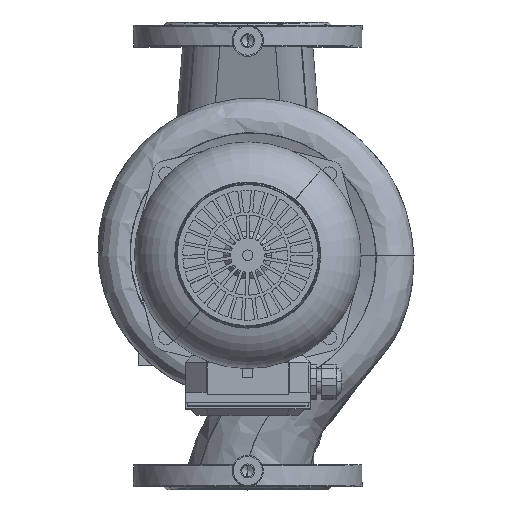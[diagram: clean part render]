
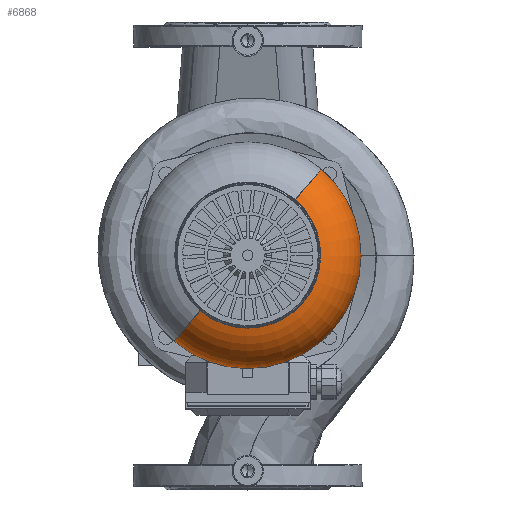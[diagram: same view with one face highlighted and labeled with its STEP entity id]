
A CAD part, top view. The second image highlights one B-rep face of the part: STEP entity #6868.
In plain terms, the highlighted toroidal (fillet/blend) face has major radius 59 mm and minor radius 50 mm.
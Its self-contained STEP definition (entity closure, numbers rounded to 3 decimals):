
#6868=ADVANCED_FACE('NONE',(#16988),#16989,.T.);
#16988=FACE_OUTER_BOUND('',#26919,.T.);
#16989=TOROIDAL_SURFACE('',#26920,59.0,50.0);
#26919=EDGE_LOOP('',(#35600,#35601,#35602,#35603));
#26920=AXIS2_PLACEMENT_3D('',#35604,#35605,#35606);
#35600=ORIENTED_EDGE('',*,*,#45375,.F.);
#35601=ORIENTED_EDGE('',*,*,#45374,.T.);
#35602=ORIENTED_EDGE('',*,*,#45376,.F.);
#35603=ORIENTED_EDGE('',*,*,#45377,.T.);
#35604=CARTESIAN_POINT('',(49.225,0.0,0.0));
#35605=DIRECTION('',(1.0,0.,0.));
#35606=DIRECTION('',(0.,0.,-1.0));
#45374=EDGE_CURVE('NONE',#54653,#54657,#54659,.T.);
#45375=EDGE_CURVE('',#54653,#54660,#54661,.T.);
#45376=EDGE_CURVE('',#54662,#54657,#54663,.T.);
#45377=EDGE_CURVE('NONE',#54662,#54660,#54664,.T.);
#54653=VERTEX_POINT('',#68626);
#54657=VERTEX_POINT('NONE',#68631);
#54659=CIRCLE('',#68634,109.);
#54660=VERTEX_POINT('NONE',#68635);
#54661=CIRCLE('',#68636,50.0);
#54662=VERTEX_POINT('',#68637);
#54663=CIRCLE('',#68638,50.0);
#54664=CIRCLE('',#68639,70.229);
#68626=CARTESIAN_POINT('',(49.225,0.,-109.));
#68631=CARTESIAN_POINT('',(49.225,0.,109.0));
#68634=AXIS2_PLACEMENT_3D('',#76021,#76022,#76023);
#68635=CARTESIAN_POINT('',(97.948,0.,-70.229));
#68636=AXIS2_PLACEMENT_3D('',#76024,#76025,#76026);
#68637=CARTESIAN_POINT('',(97.948,0.,70.229));
#68638=AXIS2_PLACEMENT_3D('',#76027,#76028,#76029);
#68639=AXIS2_PLACEMENT_3D('',#76030,#76031,#76032);
#76021=CARTESIAN_POINT('',(49.225,0.0,0.0));
#76022=DIRECTION('',(1.0,0.,0.));
#76023=DIRECTION('',(0.,0.,-1.0));
#76024=CARTESIAN_POINT('',(49.225,0.,-59.0));
#76025=DIRECTION('',(0.,-1.0,0.));
#76026=DIRECTION('',(0.,0.,-1.0));
#76027=CARTESIAN_POINT('',(49.225,0.,59.0));
#76028=DIRECTION('',(0.,-1.0,0.));
#76029=DIRECTION('',(0.,0.,1.0));
#76030=CARTESIAN_POINT('',(97.948,0.0,0.0));
#76031=DIRECTION('',(-1.0,0.,0.));
#76032=DIRECTION('',(0.,0.,1.0));
